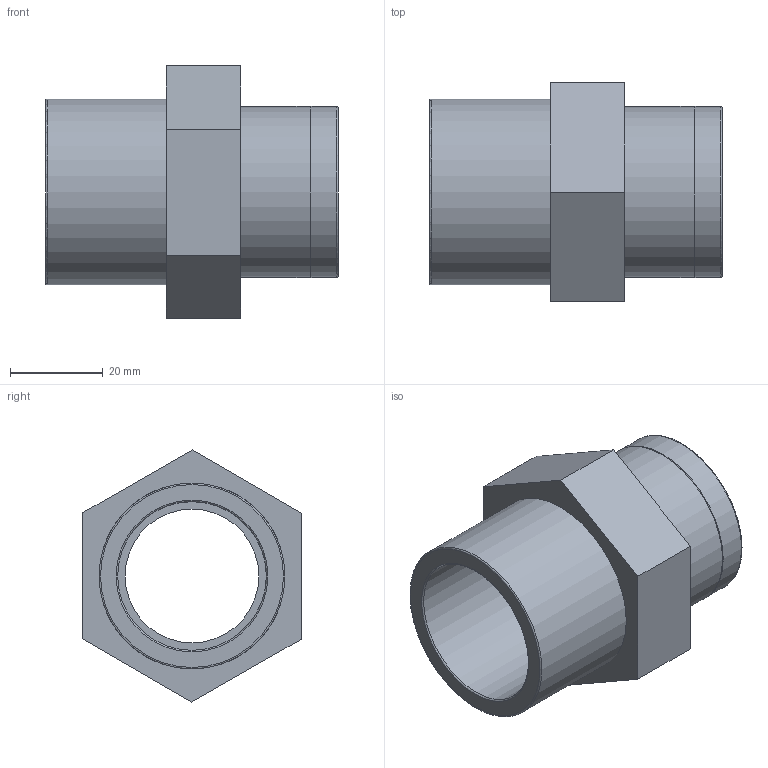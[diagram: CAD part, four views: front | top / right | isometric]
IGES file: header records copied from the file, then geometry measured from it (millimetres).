
Global section: file name: 057202040010.ipt; native system: Autodesk Inventor 2015; preprocessor: unknown; author: KIM; date: 20171207.165819; units: millimetre
Bounding box: 63 x 47.07 x 54.27 mm (x, y, z)
Volume: 37222.4 mm3; surface area: 16958.6 mm2
Topology: 1 solids, 1 shells, 24 faces, 61 edges, 43 vertices
Faces by surface type: plane 12, revolution 7, cylinder 3, cone 2
Full cylindrical faces by diameter (mm): 36.8 x2, 40 x1
